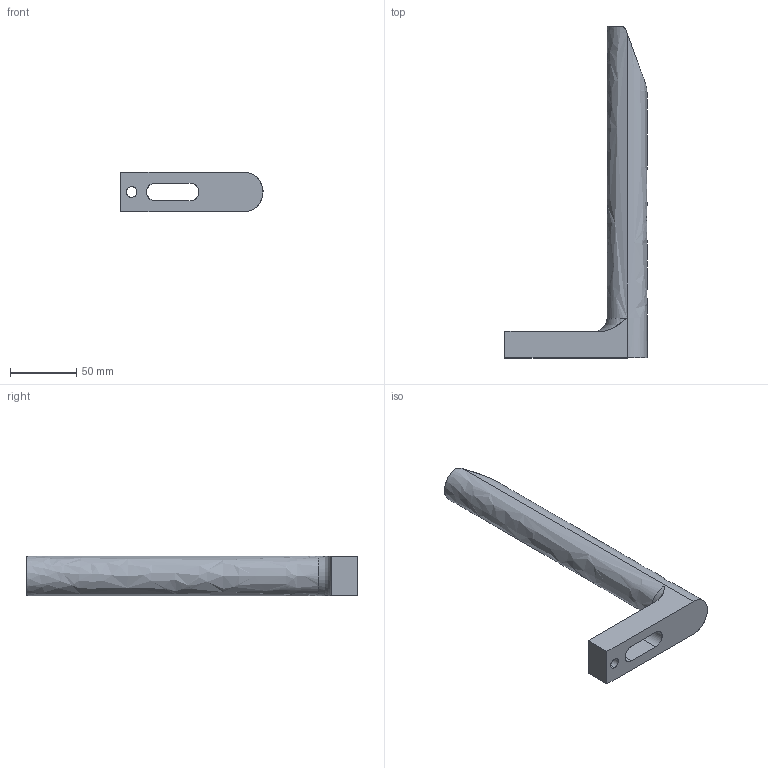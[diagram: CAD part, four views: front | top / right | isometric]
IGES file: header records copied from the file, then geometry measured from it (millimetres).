
Start section: START RECORD GO HERE.
Global section: file name: 702-7.igs; native system: DASSAULT SYSTEMES CATIA V5 R20 - www.3ds.com; preprocessor: CATIA Version 5 Release 20 ; author: Utente; organization: NB04-ASUS; date: 20200410.173510; units: millimetre
Bounding box: 107 x 250 x 30 mm (x, y, z)
Surface area: 33587.3 mm2 (no closed solid volume)
Topology: 0 solids, 0 shells, 18 faces, 95 edges, 95 vertices
Faces by surface type: revolution 9, extrusion 9
